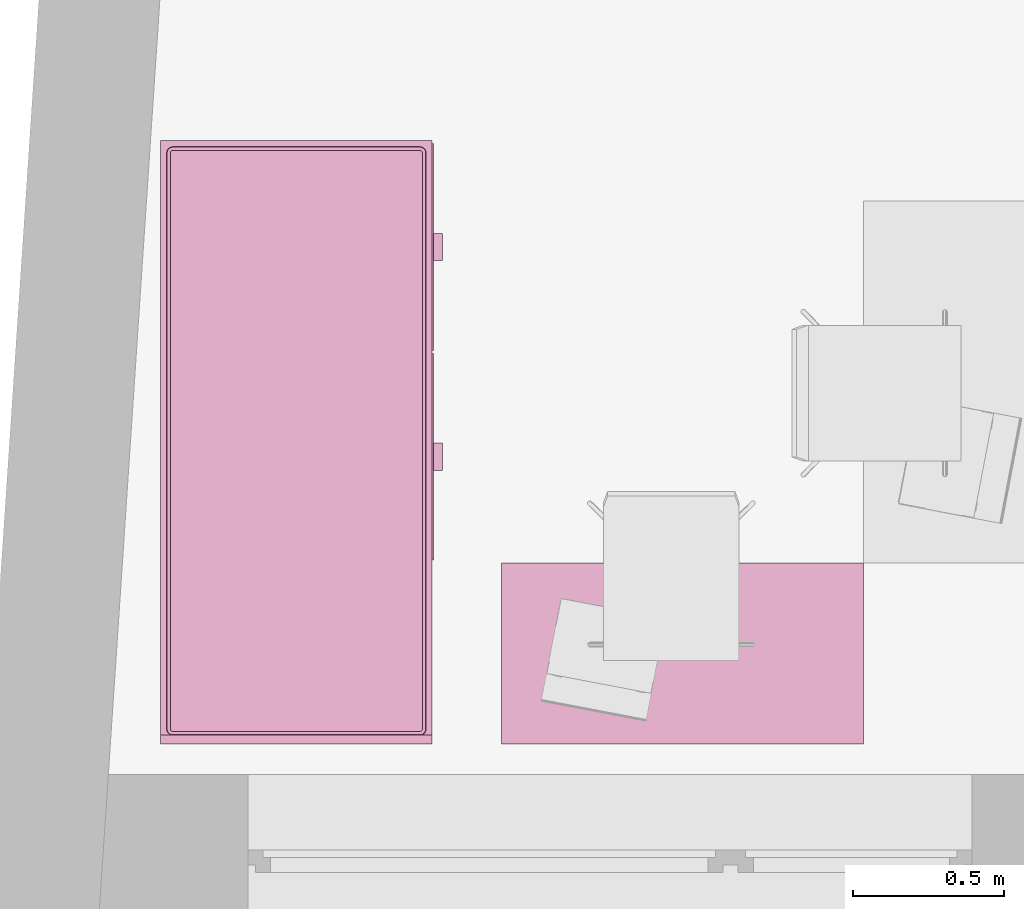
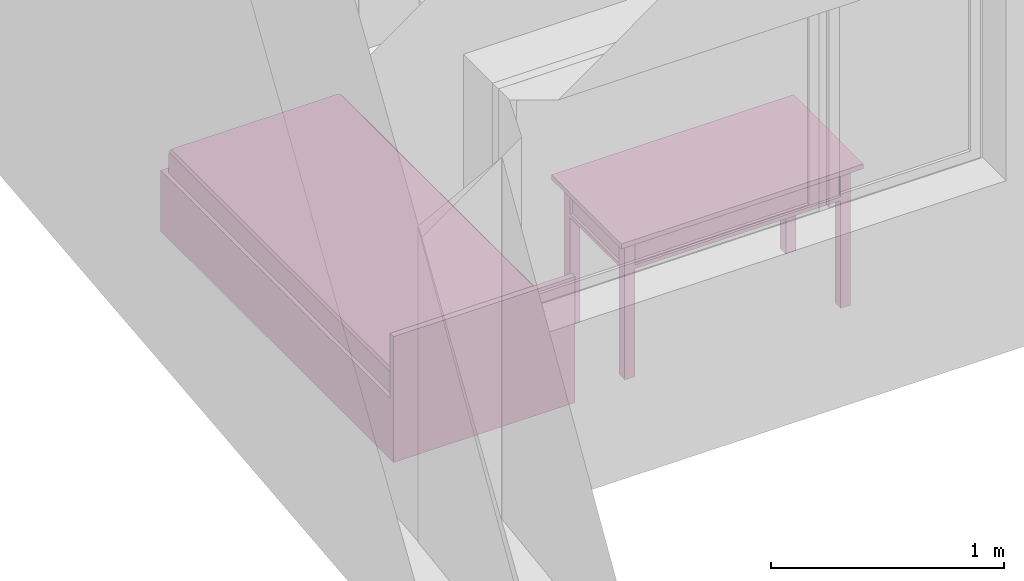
# One storey, part 71 of 172: 2 furnishings.
"""IFC2X3 building model written with IfcOpenShell, lengths in millimetres."""

from ifc_helpers import new_model, entity, si_unit, converted_unit, money_unit, direction, frame, origin_with_axes, place, context, subcontext, project, spatial, faceted_brep, source, transform, mapped, material, material_list, type_object, element, save


model = new_model("IFC2X3")

# Units and contexts
model_context = context("Model", 3, precision=1e-05, world=origin_with_axes(), true_north=direction((0.0, 1.0)))
body_context = subcontext(model_context, "Body", "Model", "MODEL_VIEW")
ifc_project = project(units=[si_unit("LENGTHUNIT", "METRE", prefix="MILLI"), si_unit("AREAUNIT", "SQUARE_METRE"), si_unit("VOLUMEUNIT", "CUBIC_METRE"), converted_unit("PLANEANGLEUNIT", "DEGREE", entity("IfcPlaneAngleMeasure", 0.0174532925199), si_unit("PLANEANGLEUNIT", "RADIAN"), dimensions=[0, 0, 0, 0, 0, 0, 0]), si_unit("SOLIDANGLEUNIT", "STERADIAN"), money_unit("USD"), converted_unit("TIMEUNIT", "Year", entity("IfcTimeMeasure", 31556926.0), si_unit("TIMEUNIT", "SECOND"), dimensions=[0, 0, 0, 0, 0, 0, 0]), si_unit("MASSUNIT", "GRAM"), si_unit("THERMODYNAMICTEMPERATUREUNIT", "DEGREE_CELSIUS"), si_unit("LUMINOUSINTENSITYUNIT", "LUMEN")], contexts=[model_context])

# Site, building, storey
site_placement = place(None, origin_with_axes())
site = spatial("IfcSite", under=ifc_project, at=site_placement, Name="Site", CompositionType="ELEMENT")
building_placement = place(site_placement, origin_with_axes())
building = spatial("IfcBuilding", under=site, at=building_placement, Name="Building", CompositionType="ELEMENT")
storey_placement = place(building_placement, frame((0.0, 0.0, 3200.0), z_axis=(0.0, 0.0, 1.0), x_axis=(1.0, 0.0, 0.0)))
storey = spatial("IfcBuildingStorey", under=building, at=storey_placement, Name="3KORRUS", CompositionType="ELEMENT", Elevation=3200.0)

# Furnishings
ifc_material = material(Name="Background")
ifc_material_list = material_list([ifc_material])
furnishing_element_type_1 = type_object("IfcFurnishingElementType", Name="Bed 19")
shared_shape_1 = source(origin_with_axes(), body_context, "Body", "Brep", [
    faceted_brep([(-900.0, 1970.0, 0.0), (-900.0, 2000.0, 0.0), (0.0, 2000.0, 0.0), (0.0, 1970.0, 0.0), (-900.0, 1970.0, 660.0), (-900.0, 2000.0, 660.0), (0.0, 2000.0, 660.0), (0.0, 1970.0, 660.0)], [[[0, 1, 2, 3]], [[0, 4, 5, 1]], [[1, 5, 6, 2]], [[2, 6, 7, 3]], [[3, 7, 4, 0]], [[7, 6, 5, 4]]]),
    faceted_brep([(-900.0, 0.0, 0.0), (-900.0, 1970.0, 0.0), (0.0, 1970.0, 0.0), (0.0, 0.0, 0.0), (-900.0, 0.0, 320.0), (-900.0, 1970.0, 320.0), (0.0, 1970.0, 320.0), (0.0, 0.0, 320.0)], [[[0, 1, 2, 3]], [[0, 4, 5, 1]], [[1, 5, 6, 2]], [[2, 6, 7, 3]], [[3, 7, 4, 0]], [[7, 6, 5, 4]]]),
    faceted_brep([(-905.0, 10.0, 30.0), (-905.0, 695.0, 30.0), (-900.0, 695.0, 30.0), (-900.0, 10.0, 30.0), (-905.0, 10.0, 290.0), (-905.0, 695.0, 290.0), (-900.0, 695.0, 290.0), (-900.0, 10.0, 290.0)], [[[0, 1, 2, 3]], [[0, 4, 5, 1]], [[1, 5, 6, 2]], [[2, 6, 7, 3]], [[3, 7, 4, 0]], [[7, 6, 5, 4]]]),
    faceted_brep([(-935.0, 307.5, 150.0), (-935.0, 397.5, 150.0), (-905.0, 397.5, 150.0), (-905.0, 307.5, 150.0), (-935.0, 307.5, 170.0), (-935.0, 397.5, 170.0), (-905.0, 397.5, 170.0), (-905.0, 307.5, 170.0)], [[[0, 1, 2, 3]], [[0, 4, 5, 1]], [[1, 5, 6, 2]], [[2, 6, 7, 3]], [[3, 7, 4, 0]], [[7, 6, 5, 4]]]),
    faceted_brep([(-905.0, 705.0, 30.0), (-905.0, 1390.0, 30.0), (-900.0, 1390.0, 30.0), (-900.0, 705.0, 30.0), (-905.0, 705.0, 290.0), (-905.0, 1390.0, 290.0), (-900.0, 1390.0, 290.0), (-900.0, 705.0, 290.0)], [[[0, 1, 2, 3]], [[0, 4, 5, 1]], [[1, 5, 6, 2]], [[2, 6, 7, 3]], [[3, 7, 4, 0]], [[7, 6, 5, 4]]]),
    faceted_brep([(-935.0, 1002.5, 150.0), (-935.0, 1092.5, 150.0), (-905.0, 1092.5, 150.0), (-905.0, 1002.5, 150.0), (-935.0, 1002.5, 170.0), (-935.0, 1092.5, 170.0), (-905.0, 1092.5, 170.0), (-905.0, 1002.5, 170.0)], [[[0, 1, 2, 3]], [[0, 4, 5, 1]], [[1, 5, 6, 2]], [[2, 6, 7, 3]], [[3, 7, 4, 0]], [[7, 6, 5, 4]]]),
    faceted_brep([(-20.0, 40.0, 350.0), (-21.522, 32.346, 350.0), (-25.858, 25.858, 350.0), (-32.346, 21.522, 350.0), (-40.0, 20.0, 350.0), (-860.0, 20.0, 350.0), (-867.654, 21.522, 350.0), (-874.142, 25.858, 350.0), (-878.478, 32.346, 350.0), (-880.0, 40.0, 350.0), (-880.0, 1950.0, 350.0), (-878.478, 1957.654, 350.0), (-874.142, 1964.142, 350.0), (-867.654, 1968.478, 350.0), (-860.0, 1970.0, 350.0), (-40.0, 1970.0, 350.0), (-32.346, 1968.478, 350.0), (-25.858, 1964.142, 350.0), (-21.522, 1957.654, 350.0), (-20.0, 1950.0, 350.0), (-20.0, 40.0, 420.0), (-21.522, 32.346, 420.0), (-25.858, 25.858, 420.0), (-32.346, 21.522, 420.0), (-40.0, 20.0, 420.0), (-860.0, 20.0, 420.0), (-867.654, 21.522, 420.0), (-874.142, 25.858, 420.0), (-878.478, 32.346, 420.0), (-880.0, 40.0, 420.0), (-880.0, 1950.0, 420.0), (-878.478, 1957.654, 420.0), (-874.142, 1964.142, 420.0), (-867.654, 1968.478, 420.0), (-860.0, 1970.0, 420.0), (-40.0, 1970.0, 420.0), (-32.346, 1968.478, 420.0), (-25.858, 1964.142, 420.0), (-21.522, 1957.654, 420.0), (-20.0, 1950.0, 420.0), (-21.522, 40.15, 427.654), (-22.956, 32.94, 427.654), (-26.955, 26.955, 427.654), (-32.94, 22.956, 427.654), (-40.15, 21.522, 427.654), (-859.85, 21.522, 427.654), (-867.06, 22.956, 427.654), (-873.045, 26.955, 427.654), (-877.044, 32.94, 427.654), (-878.478, 40.15, 427.654), (-878.478, 1949.85, 427.654), (-877.044, 1957.06, 427.654), (-873.045, 1963.045, 427.654), (-867.06, 1967.044, 427.654), (-859.85, 1968.478, 427.654), (-40.15, 1968.478, 427.654), (-32.94, 1967.044, 427.654), (-26.955, 1963.045, 427.654), (-22.956, 1957.06, 427.654), (-21.522, 1949.85, 427.654), (-32.346, 41.216, 438.478), (-33.152, 37.164, 438.478), (-34.759, 34.759, 438.478), (-37.164, 33.152, 438.478), (-41.216, 32.346, 438.478), (-858.784, 32.346, 438.478), (-862.836, 33.152, 438.478), (-865.241, 34.759, 438.478), (-866.848, 37.164, 438.478), (-867.654, 41.216, 438.478), (-867.654, 1948.784, 438.478), (-866.848, 1952.836, 438.478), (-865.241, 1955.241, 438.478), (-862.836, 1956.848, 438.478), (-858.784, 1957.654, 438.478), (-41.216, 1957.654, 438.478), (-37.164, 1956.848, 438.478), (-34.759, 1955.241, 438.478), (-33.152, 1952.836, 438.478), (-32.346, 1948.784, 438.478), (-40.0, 41.97, 440.0), (-40.327, 40.327, 440.0), (-40.0, 40.0, 439.924), (-41.97, 40.0, 440.0), (-858.03, 40.0, 440.0), (-859.673, 40.327, 440.0), (-860.0, 40.0, 439.924), (-860.0, 41.97, 440.0), (-860.0, 1948.03, 440.0), (-859.673, 1949.673, 440.0), (-860.0, 1950.0, 439.924), (-858.03, 1950.0, 440.0), (-41.97, 1950.0, 440.0), (-40.327, 1949.673, 440.0), (-40.0, 1950.0, 439.924), (-40.0, 1948.03, 440.0)], [[[0, 1, 2, 3, 4, 5, 6, 7, 8, 9, 10, 11, 12, 13, 14, 15, 16, 17, 18, 19]], [[0, 20, 21, 1]], [[1, 21, 22, 2]], [[2, 22, 23, 3]], [[3, 23, 24, 4]], [[4, 24, 25, 5]], [[5, 25, 26, 6]], [[6, 26, 27, 7]], [[7, 27, 28, 8]], [[8, 28, 29, 9]], [[9, 29, 30, 10]], [[10, 30, 31, 11]], [[11, 31, 32, 12]], [[12, 32, 33, 13]], [[13, 33, 34, 14]], [[14, 34, 35, 15]], [[15, 35, 36, 16]], [[16, 36, 37, 17]], [[17, 37, 38, 18]], [[18, 38, 39, 19]], [[19, 39, 20, 0]], [[20, 40, 41, 21]], [[21, 41, 42, 22]], [[22, 42, 43, 23]], [[23, 43, 44, 24]], [[24, 44, 45, 25]], [[25, 45, 46, 26]], [[26, 46, 47, 27]], [[27, 47, 48, 28]], [[28, 48, 49, 29]], [[29, 49, 50, 30]], [[30, 50, 51, 31]], [[31, 51, 52, 32]], [[32, 52, 53, 33]], [[33, 53, 54, 34]], [[34, 54, 55, 35]], [[35, 55, 56, 36]], [[36, 56, 57, 37]], [[37, 57, 58, 38]], [[38, 58, 59, 39]], [[39, 59, 40, 20]], [[40, 60, 61, 41]], [[41, 61, 62, 42]], [[42, 62, 63, 43]], [[43, 63, 64, 44]], [[44, 64, 65, 45]], [[45, 65, 66, 46]], [[46, 66, 67, 47]], [[47, 67, 68, 48]], [[48, 68, 69, 49]], [[49, 69, 70, 50]], [[50, 70, 71, 51]], [[51, 71, 72, 52]], [[52, 72, 73, 53]], [[53, 73, 74, 54]], [[54, 74, 75, 55]], [[55, 75, 76, 56]], [[56, 76, 77, 57]], [[57, 77, 78, 58]], [[58, 78, 79, 59]], [[59, 79, 60, 40]], [[60, 80, 81, 82, 61]], [[61, 82, 62]], [[62, 82, 63]], [[63, 82, 81, 83, 64]], [[64, 83, 84, 65]], [[65, 84, 85, 86, 66]], [[66, 86, 67]], [[67, 86, 68]], [[68, 86, 85, 87, 69]], [[69, 87, 88, 70]], [[70, 88, 89, 90, 71]], [[71, 90, 72]], [[72, 90, 73]], [[73, 90, 89, 91, 74]], [[74, 91, 92, 75]], [[75, 92, 93, 94, 76]], [[76, 94, 77]], [[77, 94, 78]], [[78, 94, 93, 95, 79]], [[79, 95, 80, 60]], [[95, 93, 92, 91, 89, 88, 87, 85, 84, 83, 81, 80]]]),
    faceted_brep([(-20.0, 40.0, 350.0), (-20.0, 1950.0, 350.0), (-21.522, 1957.654, 350.0), (-25.858, 1964.142, 350.0), (-32.346, 1968.478, 350.0), (-40.0, 1970.0, 350.0), (-860.0, 1970.0, 350.0), (-867.654, 1968.478, 350.0), (-874.142, 1964.142, 350.0), (-878.478, 1957.654, 350.0), (-880.0, 1950.0, 350.0), (-880.0, 40.0, 350.0), (-878.478, 32.346, 350.0), (-874.142, 25.858, 350.0), (-867.654, 21.522, 350.0), (-860.0, 20.0, 350.0), (-40.0, 20.0, 350.0), (-32.346, 21.522, 350.0), (-25.858, 25.858, 350.0), (-21.522, 32.346, 350.0), (-20.0, 40.0, 320.0), (-20.0, 1950.0, 320.0), (-21.522, 1957.654, 320.0), (-25.858, 1964.142, 320.0), (-32.346, 1968.478, 320.0), (-40.0, 1970.0, 320.0), (-860.0, 1970.0, 320.0), (-867.654, 1968.478, 320.0), (-874.142, 1964.142, 320.0), (-878.478, 1957.654, 320.0), (-880.0, 1950.0, 320.0), (-880.0, 40.0, 320.0), (-878.478, 32.346, 320.0), (-874.142, 25.858, 320.0), (-867.654, 21.522, 320.0), (-860.0, 20.0, 320.0), (-40.0, 20.0, 320.0), (-32.346, 21.522, 320.0), (-25.858, 25.858, 320.0), (-21.522, 32.346, 320.0)], [[[0, 1, 2, 3, 4, 5, 6, 7, 8, 9, 10, 11, 12, 13, 14, 15, 16, 17, 18, 19]], [[1, 0, 20, 21]], [[2, 1, 21, 22]], [[3, 2, 22, 23]], [[4, 3, 23, 24]], [[5, 4, 24, 25]], [[6, 5, 25, 26]], [[7, 6, 26, 27]], [[8, 7, 27, 28]], [[9, 8, 28, 29]], [[10, 9, 29, 30]], [[11, 10, 30, 31]], [[12, 11, 31, 32]], [[13, 12, 32, 33]], [[14, 13, 33, 34]], [[15, 14, 34, 35]], [[16, 15, 35, 36]], [[17, 16, 36, 37]], [[18, 17, 37, 38]], [[19, 18, 38, 39]], [[0, 19, 39, 20]], [[20, 39, 38, 37, 36, 35, 34, 33, 32, 31, 30, 29, 28, 27, 26, 25, 24, 23, 22, 21]]]),
])
furnishing_1_placement = place(storey_placement, frame((-54025.0359916, -17539.2398994, 0.0), z_axis=(0.0, 0.0, 1.0), x_axis=(-1.0, 0.0, 0.0)))
element("IfcFurnishingElement", 1, at=furnishing_1_placement, inside=storey, type_object=furnishing_element_type_1, material=ifc_material_list, Name="FU - 013", context=body_context, shape_type="MappedRepresentation", body=[
    mapped(shared_shape_1, transform((0.0, 0.0, 0.0))),
])
furnishing_element_type_2 = type_object("IfcFurnishingElementType", Name="Rectangular Table 01 19")
shared_shape_2 = source(origin_with_axes(), body_context, "Body", "Brep", [
    faceted_brep([(-90.0, 40.0, 0.0), (-90.0, 90.0, 0.0), (-40.0, 90.0, 0.0), (-40.0, 40.0, 0.0), (-90.0, 40.0, 725.0), (-90.0, 90.0, 725.0), (-40.0, 90.0, 725.0), (-40.0, 40.0, 725.0)], [[[0, 1, 2, 3]], [[0, 4, 5, 1]], [[1, 5, 6, 2]], [[2, 6, 7, 3]], [[3, 7, 4, 0]], [[7, 6, 5, 4]]]),
    faceted_brep([(-1160.0, 40.0, 0.0), (-1160.0, 90.0, 0.0), (-1110.0, 90.0, 0.0), (-1110.0, 40.0, 0.0), (-1160.0, 40.0, 725.0), (-1160.0, 90.0, 725.0), (-1110.0, 90.0, 725.0), (-1110.0, 40.0, 725.0)], [[[0, 1, 2, 3]], [[0, 4, 5, 1]], [[1, 5, 6, 2]], [[2, 6, 7, 3]], [[3, 7, 4, 0]], [[7, 6, 5, 4]]]),
    faceted_brep([(-90.0, 510.0, 0.0), (-90.0, 560.0, 0.0), (-40.0, 560.0, 0.0), (-40.0, 510.0, 0.0), (-90.0, 510.0, 725.0), (-90.0, 560.0, 725.0), (-40.0, 560.0, 725.0), (-40.0, 510.0, 725.0)], [[[0, 1, 2, 3]], [[0, 4, 5, 1]], [[1, 5, 6, 2]], [[2, 6, 7, 3]], [[3, 7, 4, 0]], [[7, 6, 5, 4]]]),
    faceted_brep([(-1160.0, 510.0, 0.0), (-1160.0, 560.0, 0.0), (-1110.0, 560.0, 0.0), (-1110.0, 510.0, 0.0), (-1160.0, 510.0, 725.0), (-1160.0, 560.0, 725.0), (-1110.0, 560.0, 725.0), (-1110.0, 510.0, 725.0)], [[[0, 1, 2, 3]], [[0, 4, 5, 1]], [[1, 5, 6, 2]], [[2, 6, 7, 3]], [[3, 7, 4, 0]], [[7, 6, 5, 4]]]),
    faceted_brep([(-1160.0, 40.0, 565.0), (-1160.0, 560.0, 565.0), (-40.0, 560.0, 565.0), (-40.0, 40.0, 565.0), (-1160.0, 40.0, 585.0), (-1160.0, 560.0, 585.0), (-40.0, 560.0, 585.0), (-40.0, 40.0, 585.0)], [[[0, 1, 2, 3]], [[0, 4, 5, 1]], [[1, 5, 6, 2]], [[2, 6, 7, 3]], [[3, 7, 4, 0]], [[7, 6, 5, 4]]]),
    faceted_brep([(-1110.0, 52.5, 585.0), (-1110.0, 77.5, 585.0), (-90.0, 77.5, 585.0), (-90.0, 52.5, 585.0), (-1110.0, 52.5, 745.0), (-1110.0, 77.5, 745.0), (-90.0, 77.5, 745.0), (-90.0, 52.5, 745.0)], [[[0, 1, 2, 3]], [[0, 4, 5, 1]], [[1, 5, 6, 2]], [[2, 6, 7, 3]], [[3, 7, 4, 0]], [[7, 6, 5, 4]]]),
    faceted_brep([(-77.5, 90.0, 585.0), (-77.5, 510.0, 585.0), (-52.5, 510.0, 585.0), (-52.5, 90.0, 585.0), (-77.5, 90.0, 745.0), (-77.5, 510.0, 745.0), (-52.5, 510.0, 745.0), (-52.5, 90.0, 745.0)], [[[0, 1, 2, 3]], [[0, 4, 5, 1]], [[1, 5, 6, 2]], [[2, 6, 7, 3]], [[3, 7, 4, 0]], [[7, 6, 5, 4]]]),
    faceted_brep([(-90.0, 547.5, 585.0), (-90.0, 522.5, 585.0), (-1110.0, 522.5, 585.0), (-1110.0, 547.5, 585.0), (-90.0, 547.5, 745.0), (-90.0, 522.5, 745.0), (-1110.0, 522.5, 745.0), (-1110.0, 547.5, 745.0)], [[[0, 1, 2, 3]], [[0, 4, 5, 1]], [[1, 5, 6, 2]], [[2, 6, 7, 3]], [[3, 7, 4, 0]], [[7, 6, 5, 4]]]),
    faceted_brep([(-1122.5, 510.0, 585.0), (-1122.5, 90.0, 585.0), (-1147.5, 90.0, 585.0), (-1147.5, 510.0, 585.0), (-1122.5, 510.0, 745.0), (-1122.5, 90.0, 745.0), (-1147.5, 90.0, 745.0), (-1147.5, 510.0, 745.0)], [[[0, 1, 2, 3]], [[0, 4, 5, 1]], [[1, 5, 6, 2]], [[2, 6, 7, 3]], [[3, 7, 4, 0]], [[7, 6, 5, 4]]]),
    faceted_brep([(-597.5, 40.0, 585.0), (-597.5, 60.0, 585.0), (-95.0, 60.0, 585.0), (-95.0, 40.0, 585.0), (-597.5, 40.0, 745.0), (-597.5, 60.0, 745.0), (-95.0, 60.0, 745.0), (-95.0, 40.0, 745.0)], [[[0, 1, 2, 3]], [[0, 4, 5, 1]], [[1, 5, 6, 2]], [[2, 6, 7, 3]], [[3, 7, 4, 0]], [[7, 6, 5, 4]]]),
    faceted_brep([(-1105.0, 40.0, 585.0), (-1105.0, 60.0, 585.0), (-602.5, 60.0, 585.0), (-602.5, 40.0, 585.0), (-1105.0, 40.0, 745.0), (-1105.0, 60.0, 745.0), (-602.5, 60.0, 745.0), (-602.5, 40.0, 745.0)], [[[0, 1, 2, 3]], [[0, 4, 5, 1]], [[1, 5, 6, 2]], [[2, 6, 7, 3]], [[3, 7, 4, 0]], [[7, 6, 5, 4]]]),
    faceted_brep([(-354.91, 40.0, 660.0), (-356.25, 40.0, 665.0), (-354.91, 40.0, 670.0), (-351.25, 40.0, 673.66), (-346.25, 40.0, 675.0), (-341.25, 40.0, 673.66), (-337.59, 40.0, 670.0), (-336.25, 40.0, 665.0), (-337.59, 40.0, 660.0), (-341.25, 40.0, 656.34), (-346.25, 40.0, 655.0), (-351.25, 40.0, 656.34), (-354.91, 25.0, 660.0), (-356.25, 25.0, 665.0), (-354.91, 25.0, 670.0), (-351.25, 25.0, 673.66), (-346.25, 25.0, 675.0), (-341.25, 25.0, 673.66), (-337.59, 25.0, 670.0), (-336.25, 25.0, 665.0), (-337.59, 25.0, 660.0), (-341.25, 25.0, 656.34), (-346.25, 25.0, 655.0), (-351.25, 25.0, 656.34)], [[[0, 1, 2, 3, 4, 5, 6, 7, 8, 9, 10, 11]], [[0, 12, 13, 1]], [[1, 13, 14, 2]], [[2, 14, 15, 3]], [[3, 15, 16, 4]], [[4, 16, 17, 5]], [[5, 17, 18, 6]], [[6, 18, 19, 7]], [[7, 19, 20, 8]], [[8, 20, 21, 9]], [[9, 21, 22, 10]], [[10, 22, 23, 11]], [[11, 23, 12, 0]], [[12, 23, 22, 21, 20, 19, 18, 17, 16, 15, 14, 13]]]),
    faceted_brep([(-356.25, 12.01, 665.0), (-354.91, 12.01, 660.0), (-346.25, 10.0, 665.0), (-363.571, 17.5, 665.0), (-361.25, 17.5, 656.34), (-351.25, 12.01, 656.34), (-354.91, 12.01, 670.0), (-366.25, 25.0, 665.0), (-363.571, 25.0, 655.0), (-354.91, 17.5, 650.0), (-361.25, 17.5, 673.66), (-346.25, 12.01, 655.0), (-351.25, 12.01, 673.66), (-363.571, 25.0, 675.0), (-356.25, 25.0, 682.321), (-346.25, 25.0, 685.0), (-336.25, 25.0, 682.321), (-328.929, 25.0, 675.0), (-326.25, 25.0, 665.0), (-328.929, 25.0, 655.0), (-336.25, 25.0, 647.679), (-346.25, 25.0, 645.0), (-356.25, 25.0, 647.679), (-346.25, 17.5, 647.679), (-354.91, 17.5, 680.0), (-341.25, 12.01, 656.34), (-346.25, 12.01, 675.0), (-346.25, 17.5, 682.321), (-337.59, 17.5, 680.0), (-331.25, 17.5, 673.66), (-328.929, 17.5, 665.0), (-331.25, 17.5, 656.34), (-337.59, 17.5, 650.0), (-337.59, 12.01, 660.0), (-341.25, 12.01, 673.66), (-337.59, 12.01, 670.0), (-336.25, 12.01, 665.0)], [[[0, 1, 2]], [[3, 4, 1, 0]], [[1, 5, 2]], [[6, 0, 2]], [[7, 8, 4, 3]], [[4, 9, 5, 1]], [[10, 3, 0, 6]], [[5, 11, 2]], [[12, 6, 2]], [[8, 7, 13, 14, 15, 16, 17, 18, 19, 20, 21, 22]], [[8, 22, 9, 4]], [[13, 7, 3, 10]], [[9, 23, 11, 5]], [[24, 10, 6, 12]], [[11, 25, 2]], [[26, 12, 2]], [[14, 13, 10, 24]], [[15, 14, 24, 27]], [[16, 15, 27, 28]], [[17, 16, 28, 29]], [[18, 17, 29, 30]], [[19, 18, 30, 31]], [[20, 19, 31, 32]], [[21, 20, 32, 23]], [[22, 21, 23, 9]], [[23, 32, 25, 11]], [[27, 24, 12, 26]], [[25, 33, 2]], [[34, 26, 2]], [[28, 27, 26, 34]], [[29, 28, 34, 35]], [[30, 29, 35, 36]], [[31, 30, 36, 33]], [[32, 31, 33, 25]], [[33, 36, 2]], [[35, 34, 2]], [[36, 35, 2]]]),
    faceted_brep([(-862.41, 40.0, 660.0), (-863.75, 40.0, 665.0), (-862.41, 40.0, 670.0), (-858.75, 40.0, 673.66), (-853.75, 40.0, 675.0), (-848.75, 40.0, 673.66), (-845.09, 40.0, 670.0), (-843.75, 40.0, 665.0), (-845.09, 40.0, 660.0), (-848.75, 40.0, 656.34), (-853.75, 40.0, 655.0), (-858.75, 40.0, 656.34), (-862.41, 25.0, 660.0), (-863.75, 25.0, 665.0), (-862.41, 25.0, 670.0), (-858.75, 25.0, 673.66), (-853.75, 25.0, 675.0), (-848.75, 25.0, 673.66), (-845.09, 25.0, 670.0), (-843.75, 25.0, 665.0), (-845.09, 25.0, 660.0), (-848.75, 25.0, 656.34), (-853.75, 25.0, 655.0), (-858.75, 25.0, 656.34)], [[[0, 1, 2, 3, 4, 5, 6, 7, 8, 9, 10, 11]], [[0, 12, 13, 1]], [[1, 13, 14, 2]], [[2, 14, 15, 3]], [[3, 15, 16, 4]], [[4, 16, 17, 5]], [[5, 17, 18, 6]], [[6, 18, 19, 7]], [[7, 19, 20, 8]], [[8, 20, 21, 9]], [[9, 21, 22, 10]], [[10, 22, 23, 11]], [[11, 23, 12, 0]], [[12, 23, 22, 21, 20, 19, 18, 17, 16, 15, 14, 13]]]),
    faceted_brep([(-863.75, 12.01, 665.0), (-862.41, 12.01, 660.0), (-853.75, 10.0, 665.0), (-871.071, 17.5, 665.0), (-868.75, 17.5, 656.34), (-858.75, 12.01, 656.34), (-862.41, 12.01, 670.0), (-873.75, 25.0, 665.0), (-871.071, 25.0, 655.0), (-862.41, 17.5, 650.0), (-868.75, 17.5, 673.66), (-853.75, 12.01, 655.0), (-858.75, 12.01, 673.66), (-871.071, 25.0, 675.0), (-863.75, 25.0, 682.321), (-853.75, 25.0, 685.0), (-843.75, 25.0, 682.321), (-836.429, 25.0, 675.0), (-833.75, 25.0, 665.0), (-836.429, 25.0, 655.0), (-843.75, 25.0, 647.679), (-853.75, 25.0, 645.0), (-863.75, 25.0, 647.679), (-853.75, 17.5, 647.679), (-862.41, 17.5, 680.0), (-848.75, 12.01, 656.34), (-853.75, 12.01, 675.0), (-853.75, 17.5, 682.321), (-845.09, 17.5, 680.0), (-838.75, 17.5, 673.66), (-836.429, 17.5, 665.0), (-838.75, 17.5, 656.34), (-845.09, 17.5, 650.0), (-845.09, 12.01, 660.0), (-848.75, 12.01, 673.66), (-845.09, 12.01, 670.0), (-843.75, 12.01, 665.0)], [[[0, 1, 2]], [[3, 4, 1, 0]], [[1, 5, 2]], [[6, 0, 2]], [[7, 8, 4, 3]], [[4, 9, 5, 1]], [[10, 3, 0, 6]], [[5, 11, 2]], [[12, 6, 2]], [[8, 7, 13, 14, 15, 16, 17, 18, 19, 20, 21, 22]], [[8, 22, 9, 4]], [[13, 7, 3, 10]], [[9, 23, 11, 5]], [[24, 10, 6, 12]], [[11, 25, 2]], [[26, 12, 2]], [[14, 13, 10, 24]], [[15, 14, 24, 27]], [[16, 15, 27, 28]], [[17, 16, 28, 29]], [[18, 17, 29, 30]], [[19, 18, 30, 31]], [[20, 19, 31, 32]], [[21, 20, 32, 23]], [[22, 21, 23, 9]], [[23, 32, 25, 11]], [[27, 24, 12, 26]], [[25, 33, 2]], [[34, 26, 2]], [[28, 27, 26, 34]], [[29, 28, 34, 35]], [[30, 29, 35, 36]], [[31, 30, 36, 33]], [[32, 31, 33, 25]], [[33, 36, 2]], [[35, 34, 2]], [[36, 35, 2]]]),
    faceted_brep([(-1200.0, 0.0, 725.0), (-1200.0, 600.0, 725.0), (0.0, 600.0, 725.0), (0.0, 0.0, 725.0), (-1200.0, 0.0, 750.0), (-1200.0, 600.0, 750.0), (0.0, 600.0, 750.0), (0.0, 0.0, 750.0)], [[[0, 1, 2, 3]], [[0, 4, 5, 1]], [[1, 5, 6, 2]], [[2, 6, 7, 3]], [[3, 7, 4, 0]], [[7, 6, 5, 4]]]),
])
furnishing_2_placement = place(storey_placement, frame((-52895.8669764, -18939.2398994, 0.0), z_axis=(0.0, 0.0, 1.0), x_axis=(-1.0, 0.0, 0.0)))
element("IfcFurnishingElement", 2, at=furnishing_2_placement, inside=storey, type_object=furnishing_element_type_2, material=ifc_material_list, Name="FU - 011", context=body_context, shape_type="MappedRepresentation", body=[
    mapped(shared_shape_2, transform((0.0, 0.0, 0.0))),
])

save(model, "model.ifc")
